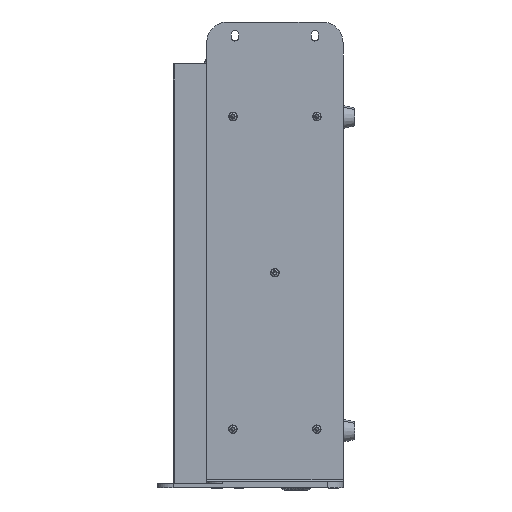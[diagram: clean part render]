
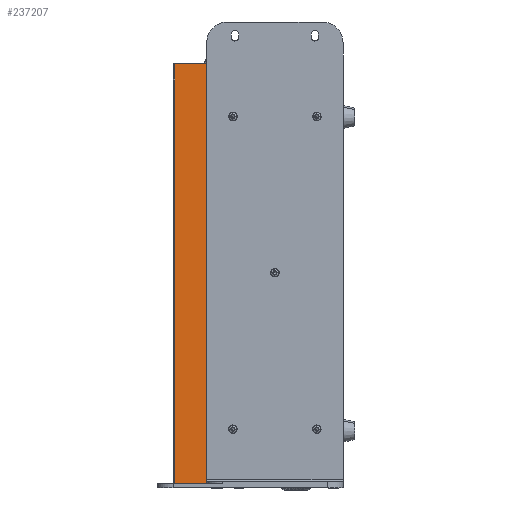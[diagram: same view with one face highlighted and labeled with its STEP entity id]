
A CAD part, left-side view. The second image highlights one B-rep face of the part: STEP entity #237207.
In plain terms, the highlighted planar face has unit normal (-1, 0, 0).
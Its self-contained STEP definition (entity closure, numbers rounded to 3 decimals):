
#3865 = FACE_OUTER_BOUND ( 'NONE', #46776, .T. ) ;
#5247 = AXIS2_PLACEMENT_3D ( 'NONE', #32773, #134914, #133564 ) ;
#6716 = ORIENTED_EDGE ( 'NONE', *, *, #67230, .F. ) ;
#23410 = VERTEX_POINT ( 'NONE', #182700 ) ;
#30186 = EDGE_CURVE ( 'NONE', #222351, #60766, #206631, .T. ) ;
#30706 = EDGE_CURVE ( 'NONE', #82690, #207692, #52492, .T. ) ;
#32773 = CARTESIAN_POINT ( 'NONE',  ( -215.5, 66.1, 200. ) ) ;
#36392 = CARTESIAN_POINT ( 'NONE',  ( -215.5, 66.1, 200. ) ) ;
#37642 = LINE ( 'NONE', #244925, #72063 ) ;
#44059 = CARTESIAN_POINT ( 'NONE',  ( -215.5, 94.387, 200. ) ) ;
#46697 = PLANE ( 'NONE',  #5247 ) ;
#46776 = EDGE_LOOP ( 'NONE', ( #157518, #6716, #119499, #195551, #69519, #72086 ) ) ;
#52492 = LINE ( 'NONE', #120094, #259550 ) ;
#60766 = VERTEX_POINT ( 'NONE', #78082 ) ;
#67230 = EDGE_CURVE ( 'NONE', #82690, #23410, #88373, .T. ) ;
#69519 = ORIENTED_EDGE ( 'NONE', *, *, #147005, .T. ) ;
#72063 = VECTOR ( 'NONE', #101094, 1000. ) ;
#72086 = ORIENTED_EDGE ( 'NONE', *, *, #30186, .T. ) ;
#78082 = CARTESIAN_POINT ( 'NONE',  ( -215.5, 62.9, -200. ) ) ;
#79522 = CARTESIAN_POINT ( 'NONE',  ( -215.5, 62.9, 0. ) ) ;
#82690 = VERTEX_POINT ( 'NONE', #170940 ) ;
#85656 = DIRECTION ( 'NONE',  ( 0., -1., 0. ) ) ;
#87804 = VECTOR ( 'NONE', #116468, 1000. ) ;
#88373 = LINE ( 'NONE', #256932, #177600 ) ;
#101094 = DIRECTION ( 'NONE',  ( 0., 0., -1. ) ) ;
#107115 = VECTOR ( 'NONE', #141613, 1000. ) ;
#116468 = DIRECTION ( 'NONE',  ( 0., -1., 0. ) ) ;
#116654 = DIRECTION ( 'NONE',  ( 0., -1., 0. ) ) ;
#117096 = CARTESIAN_POINT ( 'NONE',  ( -215.5, 63.9, 200. ) ) ;
#119499 = ORIENTED_EDGE ( 'NONE', *, *, #30706, .T. ) ;
#120094 = CARTESIAN_POINT ( 'NONE',  ( -215.5, 63.9, -198. ) ) ;
#130914 = VERTEX_POINT ( 'NONE', #44059 ) ;
#133564 = DIRECTION ( 'NONE',  ( 0., 0., -1. ) ) ;
#134914 = DIRECTION ( 'NONE',  ( 1., 0., 0. ) ) ;
#135798 = LINE ( 'NONE', #36392, #87804 ) ;
#141613 = DIRECTION ( 'NONE',  ( 0., 0., -1. ) ) ;
#147005 = EDGE_CURVE ( 'NONE', #130914, #222351, #37642, .T. ) ;
#157518 = ORIENTED_EDGE ( 'NONE', *, *, #269027, .F. ) ;
#170940 = CARTESIAN_POINT ( 'NONE',  ( -215.5, 63.9, -196. ) ) ;
#177600 = VECTOR ( 'NONE', #85656, 1000. ) ;
#182700 = CARTESIAN_POINT ( 'NONE',  ( -215.5, 62.9, -196. ) ) ;
#183710 = DIRECTION ( 'NONE',  ( 0., 0., 1. ) ) ;
#185740 = CARTESIAN_POINT ( 'NONE',  ( -215.5, 66.1, -200. ) ) ;
#195551 = ORIENTED_EDGE ( 'NONE', *, *, #273084, .F. ) ;
#197134 = VECTOR ( 'NONE', #116654, 1000. ) ;
#206631 = LINE ( 'NONE', #185740, #197134 ) ;
#207692 = VERTEX_POINT ( 'NONE', #117096 ) ;
#222351 = VERTEX_POINT ( 'NONE', #256970 ) ;
#237207 = ADVANCED_FACE ( 'NONE', ( #3865 ), #46697, .F. ) ;
#244925 = CARTESIAN_POINT ( 'NONE',  ( -215.5, 94.387, 200. ) ) ;
#256932 = CARTESIAN_POINT ( 'NONE',  ( -215.5, -66.1, -196. ) ) ;
#256970 = CARTESIAN_POINT ( 'NONE',  ( -215.5, 94.387, -200. ) ) ;
#259550 = VECTOR ( 'NONE', #183710, 1000. ) ;
#269027 = EDGE_CURVE ( 'NONE', #23410, #60766, #272815, .T. ) ;
#272815 = LINE ( 'NONE', #79522, #107115 ) ;
#273084 = EDGE_CURVE ( 'NONE', #130914, #207692, #135798, .T. ) ;
